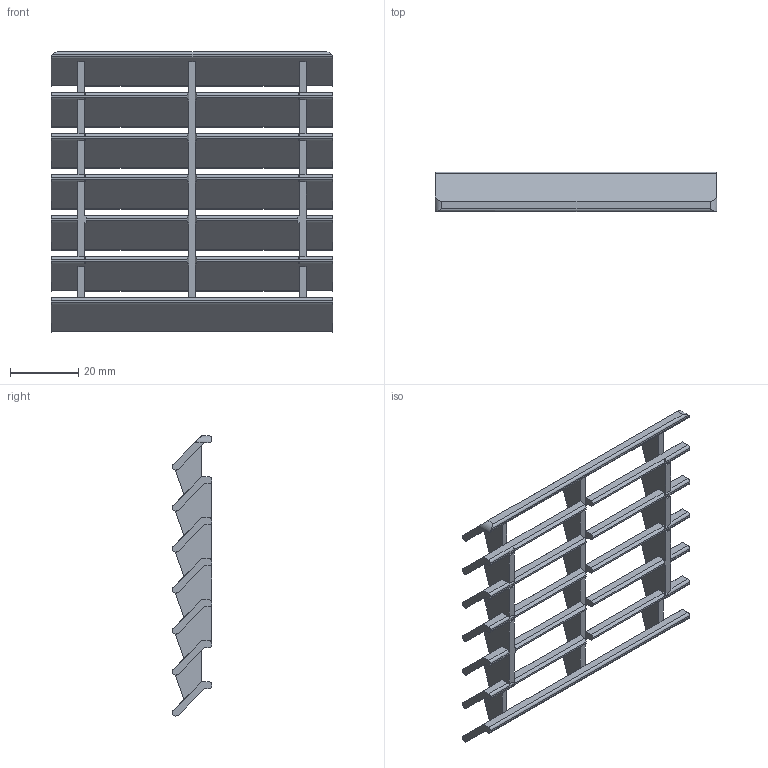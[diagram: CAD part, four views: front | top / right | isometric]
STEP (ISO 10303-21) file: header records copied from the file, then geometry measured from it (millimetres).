
FILE_DESCRIPTION (( 'STEP AP214' ), '1' );
FILE_NAME ('252017_Luftfuehrung_fuer_CSL_CSF_028.STEP', '2018-09-24T11:45:58', ( '' ), ( '' ), 'SwSTEP 2.0', 'SolidWorks 2018', '' );
FILE_SCHEMA (( 'AUTOMOTIVE_DESIGN' ));
Length unit declared in the file: millimetre
Products named in the file (1): 252017_Luftfuehrung_fuer_CSL_CSF_028
Bounding box: 82.5 x 11.58 x 82 mm (x, y, z)
Volume: 19219.4 mm3; surface area: 21455.6 mm2
Topology: 1 solids, 1 shells, 258 faces, 730 edges, 450 vertices
Faces by surface type: plane 202, cylinder 40, cone 16
Entity records: 8398 total; most frequent: CARTESIAN_POINT 1657, ORIENTED_EDGE 1460, DIRECTION 1336, EDGE_CURVE 730, LINE 598, VECTOR 598, VERTEX_POINT 450, AXIS2_PLACEMENT_3D 369
